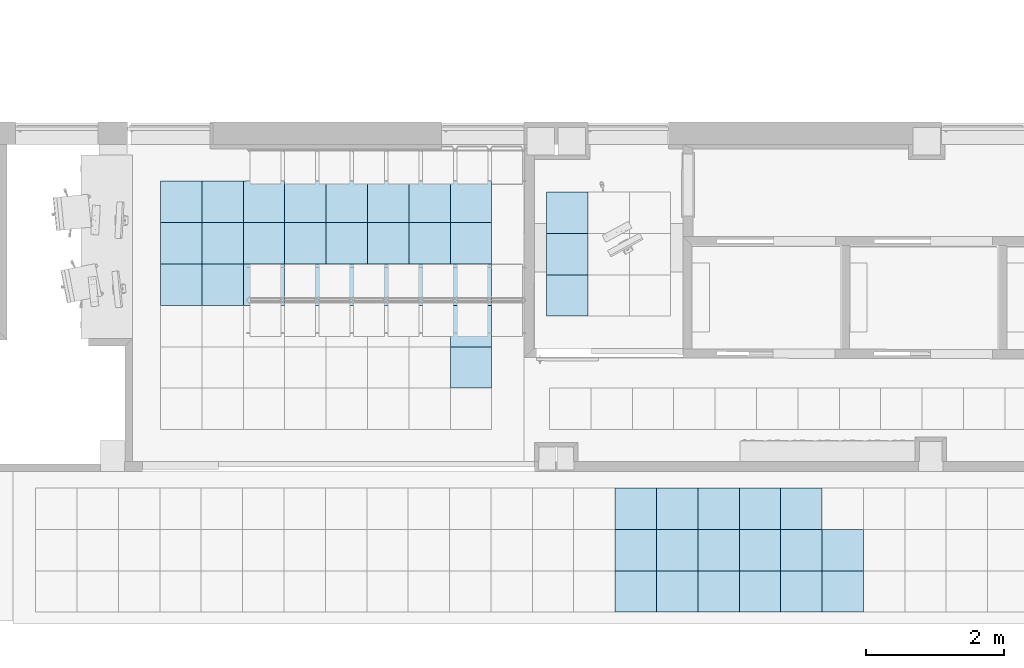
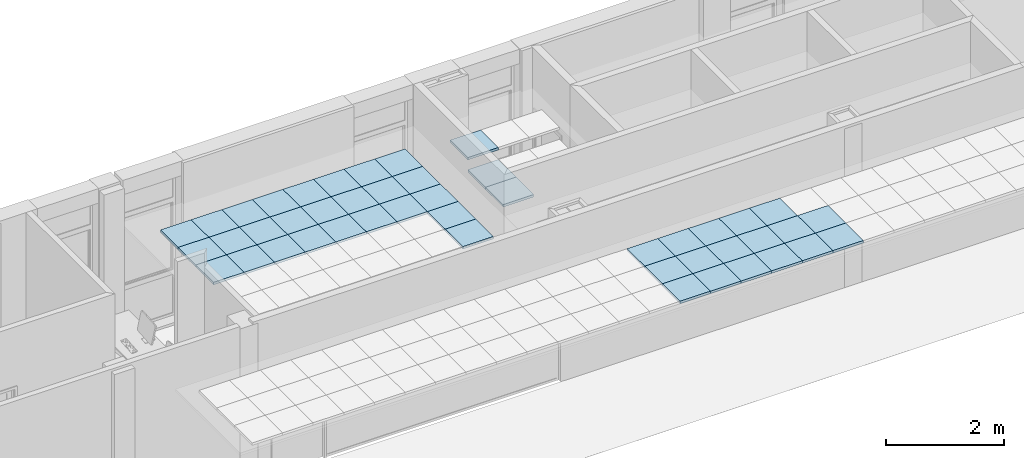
# One storey, part 15 of 68: 46 slabs.
"""IFC2X3 building model written with IfcOpenShell, lengths in millimetres."""

from ifc_helpers import new_model, entity, si_unit, converted_unit, derived_unit, money_unit, direction, frame, origin_with_axes, place, context, subcontext, project, spatial, polyline, outline, extrude, material, layer, layer_set, layer_usage, type_object, element, save


model = new_model("IFC2X3")

# Units and contexts
model_context = context("Model", 3, precision=0.01, world=origin_with_axes(), true_north=direction((0.0, 1.0)))
body_context = subcontext(model_context, "Body", "Model", "MODEL_VIEW")
ifc_project = project(units=[si_unit("LENGTHUNIT", "METRE", prefix="MILLI"), si_unit("AREAUNIT", "SQUARE_METRE"), si_unit("VOLUMEUNIT", "CUBIC_METRE"), converted_unit("PLANEANGLEUNIT", "DEGREE", entity("IfcPlaneAngleMeasure", 0.0174532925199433), si_unit("PLANEANGLEUNIT", "RADIAN"), dimensions=[0, 0, 0, 0, 0, 0, 0]), money_unit("USD"), converted_unit("TIMEUNIT", "Year", entity("IfcTimeMeasure", 31557600.0), si_unit("TIMEUNIT", "SECOND"), dimensions=[0, 0, 1, 0, 0, 0, 0]), si_unit("MASSUNIT", "GRAM", prefix="KILO"), si_unit("THERMODYNAMICTEMPERATUREUNIT", "DEGREE_CELSIUS"), si_unit("LUMINOUSINTENSITYUNIT", "LUMEN"), si_unit("ENERGYUNIT", "JOULE", prefix="MEGA"), derived_unit("THERMALCONDUCTANCEUNIT", [(si_unit("POWERUNIT", "WATT"), 1), (si_unit("LENGTHUNIT", "METRE"), -1), (si_unit("THERMODYNAMICTEMPERATUREUNIT", "KELVIN"), -1)]), derived_unit("SPECIFICHEATCAPACITYUNIT", [(si_unit("ENERGYUNIT", "JOULE"), 1), (si_unit("MASSUNIT", "GRAM", prefix="KILO"), -1), (si_unit("THERMODYNAMICTEMPERATUREUNIT", "KELVIN"), -1)]), derived_unit("MASSDENSITYUNIT", [(si_unit("MASSUNIT", "GRAM", prefix="KILO"), 1), (si_unit("VOLUMEUNIT", "CUBIC_METRE"), -1)])], contexts=[model_context])

# Site, building, storey
site_placement = place(None, origin_with_axes())
site = spatial("IfcSite", under=ifc_project, at=site_placement, Name="Sitio", CompositionType="ELEMENT")
building_placement = place(site_placement, origin_with_axes())
building = spatial("IfcBuilding", under=site, at=building_placement, Name="Construcción", CompositionType="ELEMENT")
storey_placement = place(building_placement, origin_with_axes())
storey = spatial("IfcBuildingStorey", under=building, at=storey_placement, Name="PLANTA 1ª", CompositionType="ELEMENT", Elevation=0.0)

# Slabs
ifc_material = material(Name="ARQ_CE217_Armstrong 60x60")
ifc_layer = layer(ifc_material, 50.0, ventilated="UNKNOWN")
ifc_layer_set = layer_set([ifc_layer], Name="ARQ_CE217_Armstrong 60x60 50")
ifc_layer_usage_1 = layer_usage(ifc_layer_set, "AXIS3", "NEGATIVE", 50.0)
slab_type = type_object("IfcSlabType", Name="ARQ_CE217_Armstrong 60x60 50", PredefinedType="NOTDEFINED")
slab_1_placement = place(storey_placement, frame((-17758.75335666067, -14074.05591184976, 2500.0), z_axis=(0.0, 0.0, 1.0), x_axis=(1.0, 0.0, 0.0)))
element("IfcSlab", 1, at=slab_1_placement, inside=storey, type_object=slab_type, material=ifc_layer_usage_1, Name="SLA - 026", PredefinedType="NOTDEFINED", context=body_context, shape_type="SweptSolid", body=[
    extrude(outline(polyline([(0.0, 0.0), (599.9999999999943, 0.0), (599.9999999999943, 599.9999999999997), (0.0, 599.9999999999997), (0.0, 0.0)])), frame((0.0, 0.0, -50.0), z_axis=(0.0, 0.0, 1.0), x_axis=(1.0, 0.0, 0.0)), (0.0, 0.0, 1.0), 50.0),
])
ifc_layer_usage_2 = layer_usage(ifc_layer_set, "AXIS3", "NEGATIVE", 50.0)
slab_2_placement = place(storey_placement, frame((-14158.75335666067, -14074.05591184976, 2500.0), z_axis=(0.0, 0.0, 1.0), x_axis=(1.0, 0.0, 0.0)))
element("IfcSlab", 2, at=slab_2_placement, inside=storey, type_object=slab_type, material=ifc_layer_usage_2, Name="SLA - 026", PredefinedType="NOTDEFINED", context=body_context, shape_type="SweptSolid", body=[
    extrude(outline(polyline([(0.0, 0.0), (600.0000000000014, 0.0), (600.0000000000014, 599.9999999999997), (0.0, 599.9999999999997), (0.0, 0.0)])), frame((0.0, 0.0, -50.0), z_axis=(0.0, 0.0, 1.0), x_axis=(1.0, 0.0, 0.0)), (0.0, 0.0, 1.0), 50.0),
])
ifc_layer_usage_3 = layer_usage(ifc_layer_set, "AXIS3", "NEGATIVE", 50.0)
slab_3_placement = place(storey_placement, frame((-15358.75335666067, -14074.05591184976, 2500.0), z_axis=(0.0, 0.0, 1.0), x_axis=(1.0, 0.0, 0.0)))
element("IfcSlab", 3, at=slab_3_placement, inside=storey, type_object=slab_type, material=ifc_layer_usage_3, Name="SLA - 026", PredefinedType="NOTDEFINED", context=body_context, shape_type="SweptSolid", body=[
    extrude(outline(polyline([(0.0, 0.0), (599.9999999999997, 0.0), (599.9999999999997, 599.9999999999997), (0.0, 599.9999999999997), (0.0, 0.0)])), frame((0.0, 0.0, -50.0), z_axis=(0.0, 0.0, 1.0), x_axis=(1.0, 0.0, 0.0)), (0.0, 0.0, 1.0), 50.0),
])
ifc_layer_usage_4 = layer_usage(ifc_layer_set, "AXIS3", "NEGATIVE", 50.0)
slab_4_placement = place(storey_placement, frame((-16558.75335666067, -14074.05591184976, 2500.0), z_axis=(0.0, 0.0, 1.0), x_axis=(1.0, 0.0, 0.0)))
element("IfcSlab", 4, at=slab_4_placement, inside=storey, type_object=slab_type, material=ifc_layer_usage_4, Name="SLA - 026", PredefinedType="NOTDEFINED", context=body_context, shape_type="SweptSolid", body=[
    extrude(outline(polyline([(0.0, 0.0), (599.9999999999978, 0.0), (599.9999999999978, 599.9999999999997), (0.0, 599.9999999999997), (0.0, 0.0)])), frame((0.0, 0.0, -50.0), z_axis=(0.0, 0.0, 1.0), x_axis=(1.0, 0.0, 0.0)), (0.0, 0.0, 1.0), 50.0),
])
ifc_layer_usage_5 = layer_usage(ifc_layer_set, "AXIS3", "NEGATIVE", 50.0)
slab_5_placement = place(storey_placement, frame((-14758.75335666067, -14074.05591184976, 2500.0), z_axis=(0.0, 0.0, 1.0), x_axis=(1.0, 0.0, 0.0)))
element("IfcSlab", 5, at=slab_5_placement, inside=storey, type_object=slab_type, material=ifc_layer_usage_5, Name="SLA - 026", PredefinedType="NOTDEFINED", context=body_context, shape_type="SweptSolid", body=[
    extrude(outline(polyline([(0.0, 0.0), (599.9999999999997, 0.0), (599.9999999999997, 599.9999999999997), (0.0, 599.9999999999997), (0.0, 0.0)])), frame((0.0, 0.0, -50.0), z_axis=(0.0, 0.0, 1.0), x_axis=(1.0, 0.0, 0.0)), (0.0, 0.0, 1.0), 50.0),
])
ifc_layer_usage_6 = layer_usage(ifc_layer_set, "AXIS3", "NEGATIVE", 50.0)
slab_6_placement = place(storey_placement, frame((-15958.75335666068, -14074.05591184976, 2500.0), z_axis=(0.0, 0.0, 1.0), x_axis=(1.0, 0.0, 0.0)))
element("IfcSlab", 6, at=slab_6_placement, inside=storey, type_object=slab_type, material=ifc_layer_usage_6, Name="SLA - 026", PredefinedType="NOTDEFINED", context=body_context, shape_type="SweptSolid", body=[
    extrude(outline(polyline([(0.0, 0.0), (600.0000000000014, 0.0), (600.0000000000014, 599.9999999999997), (0.0, 599.9999999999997), (0.0, 0.0)])), frame((0.0, 0.0, -50.0), z_axis=(0.0, 0.0, 1.0), x_axis=(1.0, 0.0, 0.0)), (0.0, 0.0, 1.0), 50.0),
])
ifc_layer_usage_7 = layer_usage(ifc_layer_set, "AXIS3", "NEGATIVE", 50.0)
slab_7_placement = place(storey_placement, frame((-17158.75335666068, -14074.05591184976, 2500.0), z_axis=(0.0, 0.0, 1.0), x_axis=(1.0, 0.0, 0.0)))
element("IfcSlab", 7, at=slab_7_placement, inside=storey, type_object=slab_type, material=ifc_layer_usage_7, Name="SLA - 026", PredefinedType="NOTDEFINED", context=body_context, shape_type="SweptSolid", body=[
    extrude(outline(polyline([(0.0, 0.0), (600.0000000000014, 0.0), (600.0000000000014, 599.9999999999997), (0.0, 599.9999999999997), (0.0, 0.0)])), frame((0.0, 0.0, -50.0), z_axis=(0.0, 0.0, 1.0), x_axis=(1.0, 0.0, 0.0)), (0.0, 0.0, 1.0), 50.0),
])
ifc_layer_usage_8 = layer_usage(ifc_layer_set, "AXIS3", "NEGATIVE", 50.0)
slab_8_placement = place(storey_placement, frame((-18358.75335666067, -14074.05591184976, 2500.0), z_axis=(0.0, 0.0, 1.0), x_axis=(1.0, 0.0, 0.0)))
element("IfcSlab", 8, at=slab_8_placement, inside=storey, type_object=slab_type, material=ifc_layer_usage_8, Name="SLA - 026", PredefinedType="NOTDEFINED", context=body_context, shape_type="SweptSolid", body=[
    extrude(outline(polyline([(0.0, 0.0), (600.0000000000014, 0.0), (600.0000000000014, 599.9999999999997), (0.0, 599.9999999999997), (0.0, 0.0)])), frame((0.0, 0.0, -50.0), z_axis=(0.0, 0.0, 1.0), x_axis=(1.0, 0.0, 0.0)), (0.0, 0.0, 1.0), 50.0),
])
ifc_layer_usage_9 = layer_usage(ifc_layer_set, "AXIS3", "NEGATIVE", 50.0)
slab_9_placement = place(storey_placement, frame((-14158.75335666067, -15874.05591184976, 2500.0), z_axis=(0.0, 0.0, 1.0), x_axis=(1.0, 0.0, 0.0)))
element("IfcSlab", 9, at=slab_9_placement, inside=storey, type_object=slab_type, material=ifc_layer_usage_9, Name="SLA - 026", PredefinedType="NOTDEFINED", context=body_context, shape_type="SweptSolid", body=[
    extrude(outline(polyline([(0.0, 0.0), (600.0000000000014, 0.0), (600.0000000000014, 599.9999999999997), (0.0, 599.9999999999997), (0.0, 0.0)])), frame((0.0, 0.0, -50.0), z_axis=(0.0, 0.0, 1.0), x_axis=(1.0, 0.0, 0.0)), (0.0, 0.0, 1.0), 50.0),
])
ifc_layer_usage_10 = layer_usage(ifc_layer_set, "AXIS3", "NEGATIVE", 50.0)
slab_10_placement = place(storey_placement, frame((-14158.75335666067, -15274.05591184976, 2500.0), z_axis=(0.0, 0.0, 1.0), x_axis=(1.0, 0.0, 0.0)))
element("IfcSlab", 10, at=slab_10_placement, inside=storey, type_object=slab_type, material=ifc_layer_usage_10, Name="SLA - 026", PredefinedType="NOTDEFINED", context=body_context, shape_type="SweptSolid", body=[
    extrude(outline(polyline([(0.0, 0.0), (600.0000000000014, 0.0), (600.0000000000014, 599.9999999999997), (0.0, 599.9999999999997), (0.0, 0.0)])), frame((0.0, 0.0, -50.0), z_axis=(0.0, 0.0, 1.0), x_axis=(1.0, 0.0, 0.0)), (0.0, 0.0, 1.0), 50.0),
])
ifc_layer_usage_11 = layer_usage(ifc_layer_set, "AXIS3", "NEGATIVE", 50.0)
slab_11_placement = place(storey_placement, frame((-18358.75335666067, -14674.05591184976, 2500.0), z_axis=(0.0, 0.0, 1.0), x_axis=(1.0, 0.0, 0.0)))
element("IfcSlab", 11, at=slab_11_placement, inside=storey, type_object=slab_type, material=ifc_layer_usage_11, Name="SLA - 026", PredefinedType="NOTDEFINED", context=body_context, shape_type="SweptSolid", body=[
    extrude(outline(polyline([(0.0, 0.0), (600.0000000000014, 0.0), (600.0000000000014, 599.9999999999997), (0.0, 599.9999999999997), (0.0, 0.0)])), frame((0.0, 0.0, -50.0), z_axis=(0.0, 0.0, 1.0), x_axis=(1.0, 0.0, 0.0)), (0.0, 0.0, 1.0), 50.0),
])
ifc_layer_usage_12 = layer_usage(ifc_layer_set, "AXIS3", "NEGATIVE", 50.0)
slab_12_placement = place(storey_placement, frame((-17758.75335666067, -14674.05591184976, 2500.0), z_axis=(0.0, 0.0, 1.0), x_axis=(1.0, 0.0, 0.0)))
element("IfcSlab", 12, at=slab_12_placement, inside=storey, type_object=slab_type, material=ifc_layer_usage_12, Name="SLA - 026", PredefinedType="NOTDEFINED", context=body_context, shape_type="SweptSolid", body=[
    extrude(outline(polyline([(0.0, 0.0), (599.9999999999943, 0.0), (599.9999999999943, 599.9999999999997), (0.0, 599.9999999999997), (0.0, 0.0)])), frame((0.0, 0.0, -50.0), z_axis=(0.0, 0.0, 1.0), x_axis=(1.0, 0.0, 0.0)), (0.0, 0.0, 1.0), 50.0),
])
ifc_layer_usage_13 = layer_usage(ifc_layer_set, "AXIS3", "NEGATIVE", 50.0)
slab_13_placement = place(storey_placement, frame((-17158.75335666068, -14674.05591184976, 2500.0), z_axis=(0.0, 0.0, 1.0), x_axis=(1.0, 0.0, 0.0)))
element("IfcSlab", 13, at=slab_13_placement, inside=storey, type_object=slab_type, material=ifc_layer_usage_13, Name="SLA - 026", PredefinedType="NOTDEFINED", context=body_context, shape_type="SweptSolid", body=[
    extrude(outline(polyline([(0.0, 0.0), (600.0000000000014, 0.0), (600.0000000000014, 599.9999999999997), (0.0, 599.9999999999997), (0.0, 0.0)])), frame((0.0, 0.0, -50.0), z_axis=(0.0, 0.0, 1.0), x_axis=(1.0, 0.0, 0.0)), (0.0, 0.0, 1.0), 50.0),
])
ifc_layer_usage_14 = layer_usage(ifc_layer_set, "AXIS3", "NEGATIVE", 50.0)
slab_14_placement = place(storey_placement, frame((-15958.75335666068, -14674.05591184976, 2500.0), z_axis=(0.0, 0.0, 1.0), x_axis=(1.0, 0.0, 0.0)))
element("IfcSlab", 14, at=slab_14_placement, inside=storey, type_object=slab_type, material=ifc_layer_usage_14, Name="SLA - 026", PredefinedType="NOTDEFINED", context=body_context, shape_type="SweptSolid", body=[
    extrude(outline(polyline([(0.0, 0.0), (600.0000000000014, 0.0), (600.0000000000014, 599.9999999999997), (0.0, 599.9999999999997), (0.0, 0.0)])), frame((0.0, 0.0, -50.0), z_axis=(0.0, 0.0, 1.0), x_axis=(1.0, 0.0, 0.0)), (0.0, 0.0, 1.0), 50.0),
])
ifc_layer_usage_15 = layer_usage(ifc_layer_set, "AXIS3", "NEGATIVE", 50.0)
slab_15_placement = place(storey_placement, frame((-16558.75335666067, -14674.05591184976, 2500.0), z_axis=(0.0, 0.0, 1.0), x_axis=(1.0, 0.0, 0.0)))
element("IfcSlab", 15, at=slab_15_placement, inside=storey, type_object=slab_type, material=ifc_layer_usage_15, Name="SLA - 026", PredefinedType="NOTDEFINED", context=body_context, shape_type="SweptSolid", body=[
    extrude(outline(polyline([(0.0, 0.0), (599.9999999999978, 0.0), (599.9999999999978, 599.9999999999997), (0.0, 599.9999999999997), (0.0, 0.0)])), frame((0.0, 0.0, -50.0), z_axis=(0.0, 0.0, 1.0), x_axis=(1.0, 0.0, 0.0)), (0.0, 0.0, 1.0), 50.0),
])
ifc_layer_usage_16 = layer_usage(ifc_layer_set, "AXIS3", "NEGATIVE", 50.0)
slab_16_placement = place(storey_placement, frame((-15358.75335666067, -14674.05591184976, 2500.0), z_axis=(0.0, 0.0, 1.0), x_axis=(1.0, 0.0, 0.0)))
element("IfcSlab", 16, at=slab_16_placement, inside=storey, type_object=slab_type, material=ifc_layer_usage_16, Name="SLA - 026", PredefinedType="NOTDEFINED", context=body_context, shape_type="SweptSolid", body=[
    extrude(outline(polyline([(0.0, 0.0), (599.9999999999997, 0.0), (599.9999999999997, 599.9999999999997), (0.0, 599.9999999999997), (0.0, 0.0)])), frame((0.0, 0.0, -50.0), z_axis=(0.0, 0.0, 1.0), x_axis=(1.0, 0.0, 0.0)), (0.0, 0.0, 1.0), 50.0),
])
ifc_layer_usage_17 = layer_usage(ifc_layer_set, "AXIS3", "NEGATIVE", 50.0)
slab_17_placement = place(storey_placement, frame((-14758.75335666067, -14674.05591184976, 2500.0), z_axis=(0.0, 0.0, 1.0), x_axis=(1.0, 0.0, 0.0)))
element("IfcSlab", 17, at=slab_17_placement, inside=storey, type_object=slab_type, material=ifc_layer_usage_17, Name="SLA - 026", PredefinedType="NOTDEFINED", context=body_context, shape_type="SweptSolid", body=[
    extrude(outline(polyline([(0.0, 0.0), (599.9999999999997, 0.0), (599.9999999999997, 599.9999999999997), (0.0, 599.9999999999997), (0.0, 0.0)])), frame((0.0, 0.0, -50.0), z_axis=(0.0, 0.0, 1.0), x_axis=(1.0, 0.0, 0.0)), (0.0, 0.0, 1.0), 50.0),
])
ifc_layer_usage_18 = layer_usage(ifc_layer_set, "AXIS3", "NEGATIVE", 50.0)
slab_18_placement = place(storey_placement, frame((-18358.75335666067, -13474.05591184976, 2500.0), z_axis=(0.0, 0.0, 1.0), x_axis=(1.0, 0.0, 0.0)))
element("IfcSlab", 18, at=slab_18_placement, inside=storey, type_object=slab_type, material=ifc_layer_usage_18, Name="SLA - 026", PredefinedType="NOTDEFINED", context=body_context, shape_type="SweptSolid", body=[
    extrude(outline(polyline([(0.0, 0.0), (600.0000000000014, 0.0), (600.0000000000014, 599.9999999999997), (0.0, 599.9999999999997), (0.0, 0.0)])), frame((0.0, 0.0, -50.0), z_axis=(0.0, 0.0, 1.0), x_axis=(1.0, 0.0, 0.0)), (0.0, 0.0, 1.0), 50.0),
])
ifc_layer_usage_19 = layer_usage(ifc_layer_set, "AXIS3", "NEGATIVE", 50.0)
slab_19_placement = place(storey_placement, frame((-14158.75335666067, -14674.05591184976, 2500.0), z_axis=(0.0, 0.0, 1.0), x_axis=(1.0, 0.0, 0.0)))
element("IfcSlab", 19, at=slab_19_placement, inside=storey, type_object=slab_type, material=ifc_layer_usage_19, Name="SLA - 026", PredefinedType="NOTDEFINED", context=body_context, shape_type="SweptSolid", body=[
    extrude(outline(polyline([(0.0, 0.0), (600.0000000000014, 0.0), (600.0000000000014, 599.9999999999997), (0.0, 599.9999999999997), (0.0, 0.0)])), frame((0.0, 0.0, -50.0), z_axis=(0.0, 0.0, 1.0), x_axis=(1.0, 0.0, 0.0)), (0.0, 0.0, 1.0), 50.0),
])
ifc_layer_usage_20 = layer_usage(ifc_layer_set, "AXIS3", "NEGATIVE", 50.0)
slab_20_placement = place(storey_placement, frame((-17158.75335666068, -13474.05591184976, 2500.0), z_axis=(0.0, 0.0, 1.0), x_axis=(1.0, 0.0, 0.0)))
element("IfcSlab", 20, at=slab_20_placement, inside=storey, type_object=slab_type, material=ifc_layer_usage_20, Name="SLA - 026", PredefinedType="NOTDEFINED", context=body_context, shape_type="SweptSolid", body=[
    extrude(outline(polyline([(0.0, 0.0), (600.0000000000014, 0.0), (600.0000000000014, 599.9999999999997), (0.0, 599.9999999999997), (0.0, 0.0)])), frame((0.0, 0.0, -50.0), z_axis=(0.0, 0.0, 1.0), x_axis=(1.0, 0.0, 0.0)), (0.0, 0.0, 1.0), 50.0),
])
ifc_layer_usage_21 = layer_usage(ifc_layer_set, "AXIS3", "NEGATIVE", 50.0)
slab_21_placement = place(storey_placement, frame((-17758.75335666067, -13474.05591184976, 2500.0), z_axis=(0.0, 0.0, 1.0), x_axis=(1.0, 0.0, 0.0)))
element("IfcSlab", 21, at=slab_21_placement, inside=storey, type_object=slab_type, material=ifc_layer_usage_21, Name="SLA - 026", PredefinedType="NOTDEFINED", context=body_context, shape_type="SweptSolid", body=[
    extrude(outline(polyline([(0.0, 0.0), (599.9999999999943, 0.0), (599.9999999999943, 599.9999999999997), (0.0, 599.9999999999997), (0.0, 0.0)])), frame((0.0, 0.0, -50.0), z_axis=(0.0, 0.0, 1.0), x_axis=(1.0, 0.0, 0.0)), (0.0, 0.0, 1.0), 50.0),
])
ifc_layer_usage_22 = layer_usage(ifc_layer_set, "AXIS3", "NEGATIVE", 50.0)
slab_22_placement = place(storey_placement, frame((-16558.75335666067, -13474.05591184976, 2500.0), z_axis=(0.0, 0.0, 1.0), x_axis=(1.0, 0.0, 0.0)))
element("IfcSlab", 22, at=slab_22_placement, inside=storey, type_object=slab_type, material=ifc_layer_usage_22, Name="SLA - 026", PredefinedType="NOTDEFINED", context=body_context, shape_type="SweptSolid", body=[
    extrude(outline(polyline([(0.0, 0.0), (599.9999999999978, 0.0), (599.9999999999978, 599.9999999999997), (0.0, 599.9999999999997), (0.0, 0.0)])), frame((0.0, 0.0, -50.0), z_axis=(0.0, 0.0, 1.0), x_axis=(1.0, 0.0, 0.0)), (0.0, 0.0, 1.0), 50.0),
])
ifc_layer_usage_23 = layer_usage(ifc_layer_set, "AXIS3", "NEGATIVE", 50.0)
slab_23_placement = place(storey_placement, frame((-15358.75335666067, -13474.05591184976, 2500.0), z_axis=(0.0, 0.0, 1.0), x_axis=(1.0, 0.0, 0.0)))
element("IfcSlab", 23, at=slab_23_placement, inside=storey, type_object=slab_type, material=ifc_layer_usage_23, Name="SLA - 026", PredefinedType="NOTDEFINED", context=body_context, shape_type="SweptSolid", body=[
    extrude(outline(polyline([(0.0, 0.0), (599.9999999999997, 0.0), (599.9999999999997, 599.9999999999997), (0.0, 599.9999999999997), (0.0, 0.0)])), frame((0.0, 0.0, -50.0), z_axis=(0.0, 0.0, 1.0), x_axis=(1.0, 0.0, 0.0)), (0.0, 0.0, 1.0), 50.0),
])
ifc_layer_usage_24 = layer_usage(ifc_layer_set, "AXIS3", "NEGATIVE", 50.0)
slab_24_placement = place(storey_placement, frame((-15958.75335666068, -13474.05591184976, 2500.0), z_axis=(0.0, 0.0, 1.0), x_axis=(1.0, 0.0, 0.0)))
element("IfcSlab", 24, at=slab_24_placement, inside=storey, type_object=slab_type, material=ifc_layer_usage_24, Name="SLA - 026", PredefinedType="NOTDEFINED", context=body_context, shape_type="SweptSolid", body=[
    extrude(outline(polyline([(0.0, 0.0), (600.0000000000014, 0.0), (600.0000000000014, 599.9999999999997), (0.0, 599.9999999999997), (0.0, 0.0)])), frame((0.0, 0.0, -50.0), z_axis=(0.0, 0.0, 1.0), x_axis=(1.0, 0.0, 0.0)), (0.0, 0.0, 1.0), 50.0),
])
ifc_layer_usage_25 = layer_usage(ifc_layer_set, "AXIS3", "NEGATIVE", 50.0)
slab_25_placement = place(storey_placement, frame((-14758.75335666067, -13474.05591184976, 2500.0), z_axis=(0.0, 0.0, 1.0), x_axis=(1.0, 0.0, 0.0)))
element("IfcSlab", 25, at=slab_25_placement, inside=storey, type_object=slab_type, material=ifc_layer_usage_25, Name="SLA - 026", PredefinedType="NOTDEFINED", context=body_context, shape_type="SweptSolid", body=[
    extrude(outline(polyline([(0.0, 0.0), (599.9999999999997, 0.0), (599.9999999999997, 599.9999999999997), (0.0, 599.9999999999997), (0.0, 0.0)])), frame((0.0, 0.0, -50.0), z_axis=(0.0, 0.0, 1.0), x_axis=(1.0, 0.0, 0.0)), (0.0, 0.0, 1.0), 50.0),
])
ifc_layer_usage_26 = layer_usage(ifc_layer_set, "AXIS3", "NEGATIVE", 50.0)
slab_26_placement = place(storey_placement, frame((-14158.75335666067, -13474.05591184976, 2500.0), z_axis=(0.0, 0.0, 1.0), x_axis=(1.0, 0.0, 0.0)))
element("IfcSlab", 26, at=slab_26_placement, inside=storey, type_object=slab_type, material=ifc_layer_usage_26, Name="SLA - 026", PredefinedType="NOTDEFINED", context=body_context, shape_type="SweptSolid", body=[
    extrude(outline(polyline([(0.0, 0.0), (600.0000000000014, 0.0), (600.0000000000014, 599.9999999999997), (0.0, 599.9999999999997), (0.0, 0.0)])), frame((0.0, 0.0, -50.0), z_axis=(0.0, 0.0, 1.0), x_axis=(1.0, 0.0, 0.0)), (0.0, 0.0, 1.0), 50.0),
])
ifc_layer_usage_27 = layer_usage(ifc_layer_set, "AXIS3", "NEGATIVE", 50.0)
slab_27_placement = place(storey_placement, frame((-12763.6659375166, -13631.06796899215, 2500.0), z_axis=(0.0, 0.0, 1.0), x_axis=(1.0, 0.0, 0.0)))
element("IfcSlab", 27, at=slab_27_placement, inside=storey, type_object=slab_type, material=ifc_layer_usage_27, Name="SLA - 026", PredefinedType="NOTDEFINED", context=body_context, shape_type="SweptSolid", body=[
    extrude(outline(polyline([(0.0, 0.0), (600.0000000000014, 0.0), (600.0000000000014, 600.0000000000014), (0.0, 600.0000000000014), (0.0, 0.0)])), frame((0.0, 0.0, -50.0), z_axis=(0.0, 0.0, 1.0), x_axis=(1.0, 0.0, 0.0)), (0.0, 0.0, 1.0), 50.0),
])
ifc_layer_usage_28 = layer_usage(ifc_layer_set, "AXIS3", "NEGATIVE", 50.0)
slab_28_placement = place(storey_placement, frame((-12763.6659375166, -14231.06796899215, 2250.0), z_axis=(0.0, 0.0, 1.0), x_axis=(1.0, 0.0, 0.0)))
element("IfcSlab", 28, at=slab_28_placement, inside=storey, type_object=slab_type, material=ifc_layer_usage_28, Name="SLA - 026", PredefinedType="NOTDEFINED", context=body_context, shape_type="SweptSolid", body=[
    extrude(outline(polyline([(0.0, 0.0), (600.0000000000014, 0.0), (600.0000000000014, 600.0000000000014), (0.0, 600.0000000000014), (0.0, 0.0)])), frame((0.0, 0.0, -50.0), z_axis=(0.0, 0.0, 1.0), x_axis=(1.0, 0.0, 0.0)), (0.0, 0.0, 1.0), 50.0),
])
ifc_layer_usage_29 = layer_usage(ifc_layer_set, "AXIS3", "NEGATIVE", 50.0)
slab_29_placement = place(storey_placement, frame((-12763.6659375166, -14831.06796899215, 2250.0), z_axis=(0.0, 0.0, 1.0), x_axis=(1.0, 0.0, 0.0)))
element("IfcSlab", 29, at=slab_29_placement, inside=storey, type_object=slab_type, material=ifc_layer_usage_29, Name="SLA - 026", PredefinedType="NOTDEFINED", context=body_context, shape_type="SweptSolid", body=[
    extrude(outline(polyline([(0.0, 0.0), (600.0000000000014, 0.0), (600.0000000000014, 600.0000000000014), (0.0, 600.0000000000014), (0.0, 0.0)])), frame((0.0, 0.0, -50.0), z_axis=(0.0, 0.0, 1.0), x_axis=(1.0, 0.0, 0.0)), (0.0, 0.0, 1.0), 50.0),
])
ifc_layer_usage_30 = layer_usage(ifc_layer_set, "AXIS3", "NEGATIVE", 50.0)
slab_30_placement = place(storey_placement, frame((-11769.70328336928, -19121.97576450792, 2500.0), z_axis=(0.0, 0.0, 1.0), x_axis=(1.0, 0.0, 0.0)))
element("IfcSlab", 30, at=slab_30_placement, inside=storey, type_object=slab_type, material=ifc_layer_usage_30, Name="SLA - 026", PredefinedType="NOTDEFINED", context=body_context, shape_type="SweptSolid", body=[
    extrude(outline(polyline([(0.0, 0.0), (600.0000000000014, 0.0), (600.0000000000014, 600.0000000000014), (0.0, 600.0000000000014), (0.0, 0.0)])), frame((0.0, 0.0, -50.0), z_axis=(0.0, 0.0, 1.0), x_axis=(1.0, 0.0, 0.0)), (0.0, 0.0, 1.0), 50.0),
])
ifc_layer_usage_31 = layer_usage(ifc_layer_set, "AXIS3", "NEGATIVE", 50.0)
slab_31_placement = place(storey_placement, frame((-11769.70328336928, -18521.97576450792, 2500.0), z_axis=(0.0, 0.0, 1.0), x_axis=(1.0, 0.0, 0.0)))
element("IfcSlab", 31, at=slab_31_placement, inside=storey, type_object=slab_type, material=ifc_layer_usage_31, Name="SLA - 026", PredefinedType="NOTDEFINED", context=body_context, shape_type="SweptSolid", body=[
    extrude(outline(polyline([(0.0, 0.0), (600.0000000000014, 0.0), (600.0000000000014, 600.0000000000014), (0.0, 600.0000000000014), (0.0, 0.0)])), frame((0.0, 0.0, -50.0), z_axis=(0.0, 0.0, 1.0), x_axis=(1.0, 0.0, 0.0)), (0.0, 0.0, 1.0), 50.0),
])
ifc_layer_usage_32 = layer_usage(ifc_layer_set, "AXIS3", "NEGATIVE", 50.0)
slab_32_placement = place(storey_placement, frame((-11769.70328336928, -17921.97576450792, 2500.0), z_axis=(0.0, 0.0, 1.0), x_axis=(1.0, 0.0, 0.0)))
element("IfcSlab", 32, at=slab_32_placement, inside=storey, type_object=slab_type, material=ifc_layer_usage_32, Name="SLA - 026", PredefinedType="NOTDEFINED", context=body_context, shape_type="SweptSolid", body=[
    extrude(outline(polyline([(0.0, 0.0), (600.0000000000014, 0.0), (600.0000000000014, 600.0000000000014), (0.0, 600.0000000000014), (0.0, 0.0)])), frame((0.0, 0.0, -50.0), z_axis=(0.0, 0.0, 1.0), x_axis=(1.0, 0.0, 0.0)), (0.0, 0.0, 1.0), 50.0),
])
ifc_layer_usage_33 = layer_usage(ifc_layer_set, "AXIS3", "NEGATIVE", 50.0)
slab_33_placement = place(storey_placement, frame((-11169.70328336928, -19121.97576450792, 2500.0), z_axis=(0.0, 0.0, 1.0), x_axis=(1.0, 0.0, 0.0)))
element("IfcSlab", 33, at=slab_33_placement, inside=storey, type_object=slab_type, material=ifc_layer_usage_33, Name="SLA - 026", PredefinedType="NOTDEFINED", context=body_context, shape_type="SweptSolid", body=[
    extrude(outline(polyline([(0.0, 0.0), (600.0000000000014, 0.0), (600.0000000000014, 600.0000000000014), (0.0, 600.0000000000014), (0.0, 0.0)])), frame((0.0, 0.0, -50.0), z_axis=(0.0, 0.0, 1.0), x_axis=(1.0, 0.0, 0.0)), (0.0, 0.0, 1.0), 50.0),
])
ifc_layer_usage_34 = layer_usage(ifc_layer_set, "AXIS3", "NEGATIVE", 50.0)
slab_34_placement = place(storey_placement, frame((-11169.70328336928, -18521.97576450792, 2500.0), z_axis=(0.0, 0.0, 1.0), x_axis=(1.0, 0.0, 0.0)))
element("IfcSlab", 34, at=slab_34_placement, inside=storey, type_object=slab_type, material=ifc_layer_usage_34, Name="SLA - 026", PredefinedType="NOTDEFINED", context=body_context, shape_type="SweptSolid", body=[
    extrude(outline(polyline([(0.0, 0.0), (600.0000000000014, 0.0), (600.0000000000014, 600.0000000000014), (0.0, 600.0000000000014), (0.0, 0.0)])), frame((0.0, 0.0, -50.0), z_axis=(0.0, 0.0, 1.0), x_axis=(1.0, 0.0, 0.0)), (0.0, 0.0, 1.0), 50.0),
])
ifc_layer_usage_35 = layer_usage(ifc_layer_set, "AXIS3", "NEGATIVE", 50.0)
slab_35_placement = place(storey_placement, frame((-11169.70328336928, -17921.97576450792, 2500.0), z_axis=(0.0, 0.0, 1.0), x_axis=(1.0, 0.0, 0.0)))
element("IfcSlab", 35, at=slab_35_placement, inside=storey, type_object=slab_type, material=ifc_layer_usage_35, Name="SLA - 026", PredefinedType="NOTDEFINED", context=body_context, shape_type="SweptSolid", body=[
    extrude(outline(polyline([(0.0, 0.0), (600.0000000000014, 0.0), (600.0000000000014, 600.0000000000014), (0.0, 600.0000000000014), (0.0, 0.0)])), frame((0.0, 0.0, -50.0), z_axis=(0.0, 0.0, 1.0), x_axis=(1.0, 0.0, 0.0)), (0.0, 0.0, 1.0), 50.0),
])
ifc_layer_usage_36 = layer_usage(ifc_layer_set, "AXIS3", "NEGATIVE", 50.0)
slab_36_placement = place(storey_placement, frame((-10569.70328336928, -19121.97576450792, 2500.0), z_axis=(0.0, 0.0, 1.0), x_axis=(1.0, 0.0, 0.0)))
element("IfcSlab", 36, at=slab_36_placement, inside=storey, type_object=slab_type, material=ifc_layer_usage_36, Name="SLA - 026", PredefinedType="NOTDEFINED", context=body_context, shape_type="SweptSolid", body=[
    extrude(outline(polyline([(0.0, 0.0), (600.0000000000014, 0.0), (600.0000000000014, 600.0000000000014), (0.0, 600.0000000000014), (0.0, 0.0)])), frame((0.0, 0.0, -50.0), z_axis=(0.0, 0.0, 1.0), x_axis=(1.0, 0.0, 0.0)), (0.0, 0.0, 1.0), 50.0),
])
ifc_layer_usage_37 = layer_usage(ifc_layer_set, "AXIS3", "NEGATIVE", 50.0)
slab_37_placement = place(storey_placement, frame((-10569.70328336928, -18521.97576450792, 2500.0), z_axis=(0.0, 0.0, 1.0), x_axis=(1.0, 0.0, 0.0)))
element("IfcSlab", 37, at=slab_37_placement, inside=storey, type_object=slab_type, material=ifc_layer_usage_37, Name="SLA - 026", PredefinedType="NOTDEFINED", context=body_context, shape_type="SweptSolid", body=[
    extrude(outline(polyline([(0.0, 0.0), (600.0000000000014, 0.0), (600.0000000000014, 600.0000000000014), (0.0, 600.0000000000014), (0.0, 0.0)])), frame((0.0, 0.0, -50.0), z_axis=(0.0, 0.0, 1.0), x_axis=(1.0, 0.0, 0.0)), (0.0, 0.0, 1.0), 50.0),
])
ifc_layer_usage_38 = layer_usage(ifc_layer_set, "AXIS3", "NEGATIVE", 50.0)
slab_38_placement = place(storey_placement, frame((-10569.70328336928, -17921.97576450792, 2500.0), z_axis=(0.0, 0.0, 1.0), x_axis=(1.0, 0.0, 0.0)))
element("IfcSlab", 38, at=slab_38_placement, inside=storey, type_object=slab_type, material=ifc_layer_usage_38, Name="SLA - 026", PredefinedType="NOTDEFINED", context=body_context, shape_type="SweptSolid", body=[
    extrude(outline(polyline([(0.0, 0.0), (600.0000000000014, 0.0), (600.0000000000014, 600.0000000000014), (0.0, 600.0000000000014), (0.0, 0.0)])), frame((0.0, 0.0, -50.0), z_axis=(0.0, 0.0, 1.0), x_axis=(1.0, 0.0, 0.0)), (0.0, 0.0, 1.0), 50.0),
])
ifc_layer_usage_39 = layer_usage(ifc_layer_set, "AXIS3", "NEGATIVE", 50.0)
slab_39_placement = place(storey_placement, frame((-9969.703283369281, -19121.97576450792, 2500.0), z_axis=(0.0, 0.0, 1.0), x_axis=(1.0, 0.0, 0.0)))
element("IfcSlab", 39, at=slab_39_placement, inside=storey, type_object=slab_type, material=ifc_layer_usage_39, Name="SLA - 026", PredefinedType="NOTDEFINED", context=body_context, shape_type="SweptSolid", body=[
    extrude(outline(polyline([(0.0, 0.0), (600.0000000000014, 0.0), (600.0000000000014, 600.0000000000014), (0.0, 600.0000000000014), (0.0, 0.0)])), frame((0.0, 0.0, -50.0), z_axis=(0.0, 0.0, 1.0), x_axis=(1.0, 0.0, 0.0)), (0.0, 0.0, 1.0), 50.0),
])
ifc_layer_usage_40 = layer_usage(ifc_layer_set, "AXIS3", "NEGATIVE", 50.0)
slab_40_placement = place(storey_placement, frame((-9969.703283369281, -18521.97576450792, 2500.0), z_axis=(0.0, 0.0, 1.0), x_axis=(1.0, 0.0, 0.0)))
element("IfcSlab", 40, at=slab_40_placement, inside=storey, type_object=slab_type, material=ifc_layer_usage_40, Name="SLA - 026", PredefinedType="NOTDEFINED", context=body_context, shape_type="SweptSolid", body=[
    extrude(outline(polyline([(0.0, 0.0), (600.0000000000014, 0.0), (600.0000000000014, 600.0000000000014), (0.0, 600.0000000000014), (0.0, 0.0)])), frame((0.0, 0.0, -50.0), z_axis=(0.0, 0.0, 1.0), x_axis=(1.0, 0.0, 0.0)), (0.0, 0.0, 1.0), 50.0),
])
ifc_layer_usage_41 = layer_usage(ifc_layer_set, "AXIS3", "NEGATIVE", 50.0)
slab_41_placement = place(storey_placement, frame((-9969.703283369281, -17921.97576450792, 2500.0), z_axis=(0.0, 0.0, 1.0), x_axis=(1.0, 0.0, 0.0)))
element("IfcSlab", 41, at=slab_41_placement, inside=storey, type_object=slab_type, material=ifc_layer_usage_41, Name="SLA - 026", PredefinedType="NOTDEFINED", context=body_context, shape_type="SweptSolid", body=[
    extrude(outline(polyline([(0.0, 0.0), (600.0000000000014, 0.0), (600.0000000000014, 600.0000000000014), (0.0, 600.0000000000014), (0.0, 0.0)])), frame((0.0, 0.0, -50.0), z_axis=(0.0, 0.0, 1.0), x_axis=(1.0, 0.0, 0.0)), (0.0, 0.0, 1.0), 50.0),
])
ifc_layer_usage_42 = layer_usage(ifc_layer_set, "AXIS3", "NEGATIVE", 50.0)
slab_42_placement = place(storey_placement, frame((-9369.70328336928, -19121.97576450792, 2500.0), z_axis=(0.0, 0.0, 1.0), x_axis=(1.0, 0.0, 0.0)))
element("IfcSlab", 42, at=slab_42_placement, inside=storey, type_object=slab_type, material=ifc_layer_usage_42, Name="SLA - 026", PredefinedType="NOTDEFINED", context=body_context, shape_type="SweptSolid", body=[
    extrude(outline(polyline([(0.0, 0.0), (600.0000000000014, 0.0), (600.0000000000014, 600.0000000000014), (0.0, 600.0000000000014), (0.0, 0.0)])), frame((0.0, 0.0, -50.0), z_axis=(0.0, 0.0, 1.0), x_axis=(1.0, 0.0, 0.0)), (0.0, 0.0, 1.0), 50.0),
])
ifc_layer_usage_43 = layer_usage(ifc_layer_set, "AXIS3", "NEGATIVE", 50.0)
slab_43_placement = place(storey_placement, frame((-9369.70328336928, -18521.97576450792, 2500.0), z_axis=(0.0, 0.0, 1.0), x_axis=(1.0, 0.0, 0.0)))
element("IfcSlab", 43, at=slab_43_placement, inside=storey, type_object=slab_type, material=ifc_layer_usage_43, Name="SLA - 026", PredefinedType="NOTDEFINED", context=body_context, shape_type="SweptSolid", body=[
    extrude(outline(polyline([(0.0, 0.0), (600.0000000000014, 0.0), (600.0000000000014, 600.0000000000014), (0.0, 600.0000000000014), (0.0, 0.0)])), frame((0.0, 0.0, -50.0), z_axis=(0.0, 0.0, 1.0), x_axis=(1.0, 0.0, 0.0)), (0.0, 0.0, 1.0), 50.0),
])
ifc_layer_usage_44 = layer_usage(ifc_layer_set, "AXIS3", "NEGATIVE", 50.0)
slab_44_placement = place(storey_placement, frame((-9369.70328336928, -17921.97576450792, 2500.0), z_axis=(0.0, 0.0, 1.0), x_axis=(1.0, 0.0, 0.0)))
element("IfcSlab", 44, at=slab_44_placement, inside=storey, type_object=slab_type, material=ifc_layer_usage_44, Name="SLA - 026", PredefinedType="NOTDEFINED", context=body_context, shape_type="SweptSolid", body=[
    extrude(outline(polyline([(0.0, 0.0), (600.0000000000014, 0.0), (600.0000000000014, 600.0000000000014), (0.0, 600.0000000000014), (0.0, 0.0)])), frame((0.0, 0.0, -50.0), z_axis=(0.0, 0.0, 1.0), x_axis=(1.0, 0.0, 0.0)), (0.0, 0.0, 1.0), 50.0),
])
ifc_layer_usage_45 = layer_usage(ifc_layer_set, "AXIS3", "NEGATIVE", 50.0)
slab_45_placement = place(storey_placement, frame((-8769.703283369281, -19121.97576450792, 2500.0), z_axis=(0.0, 0.0, 1.0), x_axis=(1.0, 0.0, 0.0)))
element("IfcSlab", 45, at=slab_45_placement, inside=storey, type_object=slab_type, material=ifc_layer_usage_45, Name="SLA - 026", PredefinedType="NOTDEFINED", context=body_context, shape_type="SweptSolid", body=[
    extrude(outline(polyline([(0.0, 0.0), (600.0000000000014, 0.0), (600.0000000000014, 600.0000000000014), (0.0, 600.0000000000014), (0.0, 0.0)])), frame((0.0, 0.0, -50.0), z_axis=(0.0, 0.0, 1.0), x_axis=(1.0, 0.0, 0.0)), (0.0, 0.0, 1.0), 50.0),
])
ifc_layer_usage_46 = layer_usage(ifc_layer_set, "AXIS3", "NEGATIVE", 50.0)
slab_46_placement = place(storey_placement, frame((-8769.703283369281, -18521.97576450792, 2500.0), z_axis=(0.0, 0.0, 1.0), x_axis=(1.0, 0.0, 0.0)))
element("IfcSlab", 46, at=slab_46_placement, inside=storey, type_object=slab_type, material=ifc_layer_usage_46, Name="SLA - 026", PredefinedType="NOTDEFINED", context=body_context, shape_type="SweptSolid", body=[
    extrude(outline(polyline([(0.0, 0.0), (600.0000000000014, 0.0), (600.0000000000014, 600.0000000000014), (0.0, 600.0000000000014), (0.0, 0.0)])), frame((0.0, 0.0, -50.0), z_axis=(0.0, 0.0, 1.0), x_axis=(1.0, 0.0, 0.0)), (0.0, 0.0, 1.0), 50.0),
])

save(model, "model.ifc")
